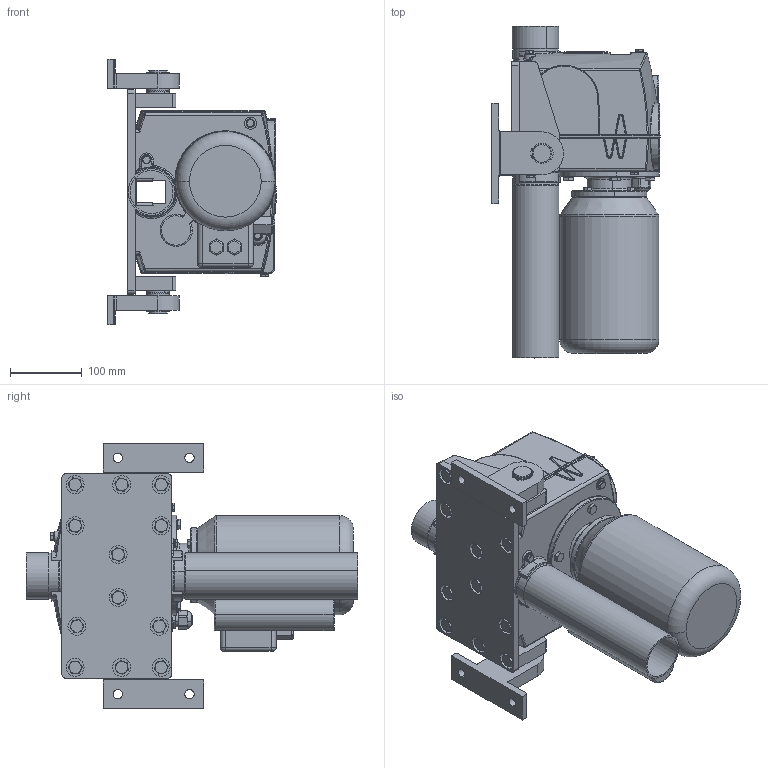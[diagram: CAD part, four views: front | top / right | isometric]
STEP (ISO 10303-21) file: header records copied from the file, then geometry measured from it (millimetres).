
FILE_DESCRIPTION (( 'STEP AP214' ), '1' );
FILE_NAME ('010225982_EZW_64_3D__DE_11264.ohne_Art.-Nr..STEP', '2024-02-19T10:59:43', ( '' ), ( '' ), 'SwSTEP 2.0', 'SolidWorks 2022', '' );
FILE_SCHEMA (( 'AUTOMOTIVE_DESIGN' ));
Length unit declared in the file: millimetre
Products named in the file (31): 010191515_Normteil_Kaufteil_3D-Modell_DE_10191515; Konsole_10126975; Schraube_10002078; 010200592_EWA_12_3D__DE; 010225849_EZW_64_3D__DE; Konsole_10133437; 010225837_EZW_64_3D__DE; Hülse_10085599; Kennzeichnung_10001854; Elektroteil_10007290; 010198258_EWA_3D-Modell_DE_10198258; Schraube_10018291; 010225982_EZW_64_3D__DE_11264.ohne_Art.-Nr.; Schraube_10028710; Montageplatte_10103438; Sicherungselement_10007714; Hülse_10045638; Konsole_10103435; 010200591_EWA_12_3D__DE_ohne Inhalt; 010225967_EZW_64_3D__DE_400V Standard; Gleitlager_10042901; Führungselement_10042900; Scheibe_10002061; Achse_10103377; Elektroteil_10001639; Konsole_10133439; Elektroteil_10001640; Elektroteil_10028709; Dichtelement_10001564; Konsole_10103399; Schraube_10057197
Assembly tree (58 placements, depth 4):
  010225982_EZW_64_3D__DE_11264.ohne_Art.-Nr.
    010225967_EZW_64_3D__DE_400V Standard
      010225837_EZW_64_3D__DE
      Hülse_10085599
      Hülse_10045638
      Kennzeichnung_10001854
      Führungselement_10042900  x2
      Elektroteil_10028709
      Elektroteil_10007290
        Elektroteil_10001639
        Elektroteil_10001640
      Schraube_10018291  x2
      Scheibe_10002061  x4
      010191515_Normteil_Kaufteil_3D-Modell_DE_10191515  x4
      Schraube_10057197  x4
      Dichtelement_10001564
      010200591_EWA_12_3D__DE_ohne Inhalt
        010200592_EWA_12_3D__DE
        010198258_EWA_3D-Modell_DE_10198258
        Schraube_10002078  x4
    010225849_EZW_64_3D__DE
    Schraube_10028710  x12
    Montageplatte_10103438
    Konsole_10133439
      Konsole_10126975
      Gleitlager_10042901
    Konsole_10133437
      Konsole_10126975
      Gleitlager_10042901
    Konsole_10103435  x2
      Achse_10103377
      Konsole_10103399
      Sicherungselement_10007714
Bounding box: 235 x 463 x 370 mm (x, y, z)
Volume: 11589277.1 mm3; surface area: 884000.1 mm2
Topology: 54 solids, 54 shells, 2971 faces, 6931 edges, 4147 vertices
Faces by surface type: plane 942, cylinder 890, torus 477, bspline 461, cone 152, sphere 49
Entity records: 87174 total; most frequent: CARTESIAN_POINT 35062, ORIENTED_EDGE 10548, DIRECTION 10037, EDGE_CURVE 5274, AXIS2_PLACEMENT_3D 4073, VERTEX_POINT 3194, EDGE_LOOP 2422, CIRCLE 2235
